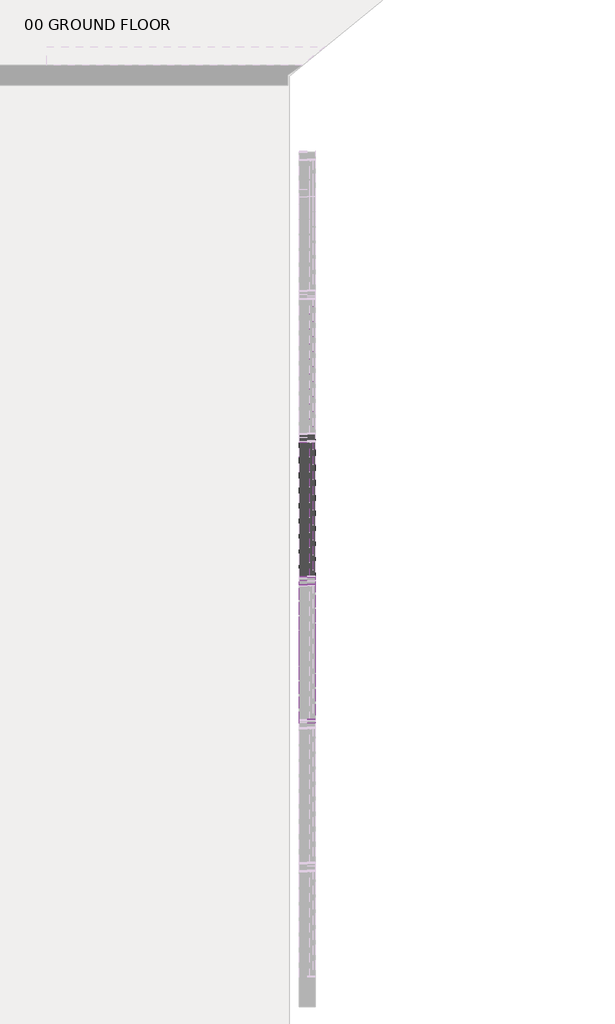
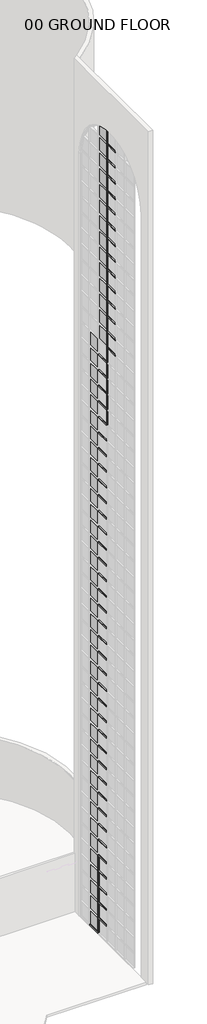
# One storey, part 20 of 33: 77 members, 52 plates.
"""IFC4 building model written with IfcOpenShell, lengths in millimetres."""

from ifc_helpers import new_model, si_unit, origin, place, context, project, spatial, transform, mapped, element, save
from components import member_14f97ceb, member_d1490fb0, member_2b49869a, member_6f85aded, member_a6249bd8, system_panel_glazed_f009bf0e, system_panel_glazed_0919b3b7, system_panel_glazed_f65f9e1d

model = new_model("IFC4")

# Units and contexts
model_context = context("Model", 3, world=origin())
ifc_project = project(units=[si_unit("LENGTHUNIT", "METRE", prefix="MILLI")], contexts=[model_context])

# Site, building, storey
site = spatial("IfcSite", under=ifc_project)
building = spatial("IfcBuilding", under=site)
storey = spatial("IfcBuildingStorey", under=building, Name="00 GROUND FLOOR", Elevation=0.0)

# Members
placement = place(None, origin())
member_shape = member_14f97ceb(model_context)
element("IfcMember", 1, ObjectType="Rectangular Mullion : 2.5\" x 5\" rectangular", at=placement, inside=storey, context=model_context, shape_type="MappedRepresentation", body=[
    mapped(member_shape, transform((44184.4050515, 6457.4964284, 0.0), x_axis=(0.0, 0.0, -1.0), y_axis=(1.0, 0.0, 0.0), z_axis=(0.0, -1.0, 0.0))),
])
member_2_shape = member_d1490fb0(model_context)
element("IfcMember", 2, ObjectType="Rectangular Mullion : 2.5\" x 5\" rectangular", at=placement, inside=storey, context=model_context, shape_type="MappedRepresentation", body=[
    mapped(member_2_shape, transform((44184.4050515, 6393.9964284, 1219.2), x_axis=(0.0, 0.0, 1.0), y_axis=(1.0, 0.0, 0.0), z_axis=(0.0, 1.0, 0.0))),
])
element("IfcMember", 3, ObjectType="Rectangular Mullion : 2.5\" x 5\" rectangular", at=placement, inside=storey, context=model_context, shape_type="MappedRepresentation", body=[
    mapped(member_2_shape, transform((44184.4050515, 6393.9964284, 2438.4), x_axis=(0.0, 0.0, 1.0), y_axis=(1.0, 0.0, 0.0), z_axis=(0.0, 1.0, 0.0))),
])
element("IfcMember", 4, ObjectType="Rectangular Mullion : 2.5\" x 5\" rectangular", at=placement, inside=storey, context=model_context, shape_type="MappedRepresentation", body=[
    mapped(member_2_shape, transform((44184.4050515, 6393.9964284, 3657.6), x_axis=(0.0, 0.0, 1.0), y_axis=(1.0, 0.0, 0.0), z_axis=(0.0, 1.0, 0.0))),
])
element("IfcMember", 5, ObjectType="Rectangular Mullion : 2.5\" x 5\" rectangular", at=placement, inside=storey, context=model_context, shape_type="MappedRepresentation", body=[
    mapped(member_2_shape, transform((44184.4050515, 6393.9964284, 4876.8), x_axis=(0.0, 0.0, 1.0), y_axis=(1.0, 0.0, 0.0), z_axis=(0.0, 1.0, 0.0))),
])
element("IfcMember", 6, ObjectType="Rectangular Mullion : 2.5\" x 5\" rectangular", at=placement, inside=storey, context=model_context, shape_type="MappedRepresentation", body=[
    mapped(member_2_shape, transform((44184.4050515, 6393.9964284, 6096.0), x_axis=(0.0, 0.0, 1.0), y_axis=(1.0, 0.0, 0.0), z_axis=(0.0, 1.0, 0.0))),
])
element("IfcMember", 7, ObjectType="Rectangular Mullion : 2.5\" x 5\" rectangular", at=placement, inside=storey, context=model_context, shape_type="MappedRepresentation", body=[
    mapped(member_2_shape, transform((44184.4050515, 6393.9964284, 7315.2), x_axis=(0.0, 0.0, 1.0), y_axis=(1.0, 0.0, 0.0), z_axis=(0.0, 1.0, 0.0))),
])
element("IfcMember", 8, ObjectType="Rectangular Mullion : 2.5\" x 5\" rectangular", at=placement, inside=storey, context=model_context, shape_type="MappedRepresentation", body=[
    mapped(member_2_shape, transform((44184.4050515, 6393.9964284, 8534.4), x_axis=(0.0, 0.0, 1.0), y_axis=(1.0, 0.0, 0.0), z_axis=(0.0, 1.0, 0.0))),
])
element("IfcMember", 9, ObjectType="Rectangular Mullion : 2.5\" x 5\" rectangular", at=placement, inside=storey, context=model_context, shape_type="MappedRepresentation", body=[
    mapped(member_2_shape, transform((44184.4050515, 6393.9964284, 9753.6), x_axis=(0.0, 0.0, 1.0), y_axis=(1.0, 0.0, 0.0), z_axis=(0.0, 1.0, 0.0))),
])
element("IfcMember", 10, ObjectType="Rectangular Mullion : 2.5\" x 5\" rectangular", at=placement, inside=storey, context=model_context, shape_type="MappedRepresentation", body=[
    mapped(member_2_shape, transform((44184.4050515, 6393.9964284, 10972.8), x_axis=(0.0, 0.0, 1.0), y_axis=(1.0, 0.0, 0.0), z_axis=(0.0, 1.0, 0.0))),
])
element("IfcMember", 11, ObjectType="Rectangular Mullion : 2.5\" x 5\" rectangular", at=placement, inside=storey, context=model_context, shape_type="MappedRepresentation", body=[
    mapped(member_2_shape, transform((44184.4050515, 6393.9964284, 12192.0), x_axis=(0.0, 0.0, 1.0), y_axis=(1.0, 0.0, 0.0), z_axis=(0.0, 1.0, 0.0))),
])
element("IfcMember", 12, ObjectType="Rectangular Mullion : 2.5\" x 5\" rectangular", at=placement, inside=storey, context=model_context, shape_type="MappedRepresentation", body=[
    mapped(member_2_shape, transform((44184.4050515, 6393.9964284, 13411.2), x_axis=(0.0, 0.0, 1.0), y_axis=(1.0, 0.0, 0.0), z_axis=(0.0, 1.0, 0.0))),
])
element("IfcMember", 13, ObjectType="Rectangular Mullion : 2.5\" x 5\" rectangular", at=placement, inside=storey, context=model_context, shape_type="MappedRepresentation", body=[
    mapped(member_2_shape, transform((44184.4050515, 6393.9964284, 14630.4), x_axis=(0.0, 0.0, 1.0), y_axis=(1.0, 0.0, 0.0), z_axis=(0.0, 1.0, 0.0))),
])
element("IfcMember", 14, ObjectType="Rectangular Mullion : 2.5\" x 5\" rectangular", at=placement, inside=storey, context=model_context, shape_type="MappedRepresentation", body=[
    mapped(member_2_shape, transform((44184.4050515, 6393.9964284, 15849.6), x_axis=(0.0, 0.0, 1.0), y_axis=(1.0, 0.0, 0.0), z_axis=(0.0, 1.0, 0.0))),
])
element("IfcMember", 15, ObjectType="Rectangular Mullion : 2.5\" x 5\" rectangular", at=placement, inside=storey, context=model_context, shape_type="MappedRepresentation", body=[
    mapped(member_2_shape, transform((44184.4050515, 6393.9964284, 17068.8), x_axis=(0.0, 0.0, 1.0), y_axis=(1.0, 0.0, 0.0), z_axis=(0.0, 1.0, 0.0))),
])
element("IfcMember", 16, ObjectType="Rectangular Mullion : 2.5\" x 5\" rectangular", at=placement, inside=storey, context=model_context, shape_type="MappedRepresentation", body=[
    mapped(member_2_shape, transform((44184.4050515, 6393.9964284, 18288.0), x_axis=(0.0, 0.0, 1.0), y_axis=(1.0, 0.0, 0.0), z_axis=(0.0, 1.0, 0.0))),
])
element("IfcMember", 17, ObjectType="Rectangular Mullion : 2.5\" x 5\" rectangular", at=placement, inside=storey, context=model_context, shape_type="MappedRepresentation", body=[
    mapped(member_2_shape, transform((44184.4050515, 6393.9964284, 19507.2), x_axis=(0.0, 0.0, 1.0), y_axis=(1.0, 0.0, 0.0), z_axis=(0.0, 1.0, 0.0))),
])
element("IfcMember", 18, ObjectType="Rectangular Mullion : 2.5\" x 5\" rectangular", at=placement, inside=storey, context=model_context, shape_type="MappedRepresentation", body=[
    mapped(member_2_shape, transform((44184.4050515, 6393.9964284, 20726.4), x_axis=(0.0, 0.0, 1.0), y_axis=(1.0, 0.0, 0.0), z_axis=(0.0, 1.0, 0.0))),
])
element("IfcMember", 19, ObjectType="Rectangular Mullion : 2.5\" x 5\" rectangular", at=placement, inside=storey, context=model_context, shape_type="MappedRepresentation", body=[
    mapped(member_2_shape, transform((44184.4050515, 6393.9964284, 21945.6), x_axis=(0.0, 0.0, 1.0), y_axis=(1.0, 0.0, 0.0), z_axis=(0.0, 1.0, 0.0))),
])
element("IfcMember", 20, ObjectType="Rectangular Mullion : 2.5\" x 5\" rectangular", at=placement, inside=storey, context=model_context, shape_type="MappedRepresentation", body=[
    mapped(member_2_shape, transform((44184.4050515, 6393.9964284, 23164.8), x_axis=(0.0, 0.0, 1.0), y_axis=(1.0, 0.0, 0.0), z_axis=(0.0, 1.0, 0.0))),
])
element("IfcMember", 21, ObjectType="Rectangular Mullion : 2.5\" x 5\" rectangular", at=placement, inside=storey, context=model_context, shape_type="MappedRepresentation", body=[
    mapped(member_2_shape, transform((44184.4050515, 6393.9964284, 24384.0), x_axis=(0.0, 0.0, 1.0), y_axis=(1.0, 0.0, 0.0), z_axis=(0.0, 1.0, 0.0))),
])
element("IfcMember", 22, ObjectType="Rectangular Mullion : 2.5\" x 5\" rectangular", at=placement, inside=storey, context=model_context, shape_type="MappedRepresentation", body=[
    mapped(member_2_shape, transform((44184.4050515, 6393.9964284, 25603.2), x_axis=(0.0, 0.0, 1.0), y_axis=(1.0, 0.0, 0.0), z_axis=(0.0, 1.0, 0.0))),
])
element("IfcMember", 23, ObjectType="Rectangular Mullion : 2.5\" x 5\" rectangular", at=placement, inside=storey, context=model_context, shape_type="MappedRepresentation", body=[
    mapped(member_2_shape, transform((44184.4050515, 6393.9964284, 26822.4), x_axis=(0.0, 0.0, 1.0), y_axis=(1.0, 0.0, 0.0), z_axis=(0.0, 1.0, 0.0))),
])
element("IfcMember", 24, ObjectType="Rectangular Mullion : 2.5\" x 5\" rectangular", at=placement, inside=storey, context=model_context, shape_type="MappedRepresentation", body=[
    mapped(member_2_shape, transform((44184.4050515, 6393.9964284, 28041.6), x_axis=(0.0, 0.0, 1.0), y_axis=(1.0, 0.0, 0.0), z_axis=(0.0, 1.0, 0.0))),
])
element("IfcMember", 25, ObjectType="Rectangular Mullion : 2.5\" x 5\" rectangular", at=placement, inside=storey, context=model_context, shape_type="MappedRepresentation", body=[
    mapped(member_2_shape, transform((44184.4050515, 6393.9964284, 29260.8), x_axis=(0.0, 0.0, 1.0), y_axis=(1.0, 0.0, 0.0), z_axis=(0.0, 1.0, 0.0))),
])
element("IfcMember", 26, ObjectType="Rectangular Mullion : 2.5\" x 5\" rectangular", at=placement, inside=storey, context=model_context, shape_type="MappedRepresentation", body=[
    mapped(member_2_shape, transform((44184.4050515, 6393.9964284, 30480.0), x_axis=(0.0, 0.0, 1.0), y_axis=(1.0, 0.0, 0.0), z_axis=(0.0, 1.0, 0.0))),
])
element("IfcMember", 27, ObjectType="Rectangular Mullion : 2.5\" x 5\" rectangular", at=placement, inside=storey, context=model_context, shape_type="MappedRepresentation", body=[
    mapped(member_2_shape, transform((44184.4050515, 6393.9964284, 31699.2), x_axis=(0.0, 0.0, 1.0), y_axis=(1.0, 0.0, 0.0), z_axis=(0.0, 1.0, 0.0))),
])
element("IfcMember", 28, ObjectType="Rectangular Mullion : 2.5\" x 5\" rectangular", at=placement, inside=storey, context=model_context, shape_type="MappedRepresentation", body=[
    mapped(member_2_shape, transform((44184.4050515, 6393.9964284, 32918.4), x_axis=(0.0, 0.0, 1.0), y_axis=(1.0, 0.0, 0.0), z_axis=(0.0, 1.0, 0.0))),
])
element("IfcMember", 29, ObjectType="Rectangular Mullion : 2.5\" x 5\" rectangular", at=placement, inside=storey, context=model_context, shape_type="MappedRepresentation", body=[
    mapped(member_2_shape, transform((44184.4050515, 6393.9964284, 34137.6), x_axis=(0.0, 0.0, 1.0), y_axis=(1.0, 0.0, 0.0), z_axis=(0.0, 1.0, 0.0))),
])
element("IfcMember", 30, ObjectType="Rectangular Mullion : 2.5\" x 5\" rectangular", at=placement, inside=storey, context=model_context, shape_type="MappedRepresentation", body=[
    mapped(member_2_shape, transform((44184.4050515, 6393.9964284, 35356.8), x_axis=(0.0, 0.0, 1.0), y_axis=(1.0, 0.0, 0.0), z_axis=(0.0, 1.0, 0.0))),
])
element("IfcMember", 31, ObjectType="Rectangular Mullion : 2.5\" x 5\" rectangular", at=placement, inside=storey, context=model_context, shape_type="MappedRepresentation", body=[
    mapped(member_2_shape, transform((44184.4050515, 6393.9964284, 36576.0), x_axis=(0.0, 0.0, 1.0), y_axis=(1.0, 0.0, 0.0), z_axis=(0.0, 1.0, 0.0))),
])
element("IfcMember", 32, ObjectType="Rectangular Mullion : 2.5\" x 5\" rectangular", at=placement, inside=storey, context=model_context, shape_type="MappedRepresentation", body=[
    mapped(member_2_shape, transform((44184.4050515, 6393.9964284, 37795.2), x_axis=(0.0, 0.0, 1.0), y_axis=(1.0, 0.0, 0.0), z_axis=(0.0, 1.0, 0.0))),
])
element("IfcMember", 33, ObjectType="Rectangular Mullion : 2.5\" x 5\" rectangular", at=placement, inside=storey, context=model_context, shape_type="MappedRepresentation", body=[
    mapped(member_2_shape, transform((44184.4050515, 6393.9964284, 39014.4), x_axis=(0.0, 0.0, 1.0), y_axis=(1.0, 0.0, 0.0), z_axis=(0.0, 1.0, 0.0))),
])
element("IfcMember", 34, ObjectType="Rectangular Mullion : 2.5\" x 5\" rectangular", at=placement, inside=storey, context=model_context, shape_type="MappedRepresentation", body=[
    mapped(member_2_shape, transform((44184.4050515, 6393.9964284, 40233.6), x_axis=(0.0, 0.0, 1.0), y_axis=(1.0, 0.0, 0.0), z_axis=(0.0, 1.0, 0.0))),
])
element("IfcMember", 35, ObjectType="Rectangular Mullion : 2.5\" x 5\" rectangular", at=placement, inside=storey, context=model_context, shape_type="MappedRepresentation", body=[
    mapped(member_2_shape, transform((44184.4050515, 6393.9964284, 41452.8), x_axis=(0.0, 0.0, 1.0), y_axis=(1.0, 0.0, 0.0), z_axis=(0.0, 1.0, 0.0))),
])
element("IfcMember", 36, ObjectType="Rectangular Mullion : 2.5\" x 5\" rectangular", at=placement, inside=storey, context=model_context, shape_type="MappedRepresentation", body=[
    mapped(member_2_shape, transform((44184.4050515, 6393.9964284, 42672.0), x_axis=(0.0, 0.0, 1.0), y_axis=(1.0, 0.0, 0.0), z_axis=(0.0, 1.0, 0.0))),
])
element("IfcMember", 37, ObjectType="Rectangular Mullion : 2.5\" x 5\" rectangular", at=placement, inside=storey, context=model_context, shape_type="MappedRepresentation", body=[
    mapped(member_2_shape, transform((44184.4050515, 6393.9964284, 43891.2), x_axis=(0.0, 0.0, 1.0), y_axis=(1.0, 0.0, 0.0), z_axis=(0.0, 1.0, 0.0))),
])
element("IfcMember", 38, ObjectType="Rectangular Mullion : 2.5\" x 5\" rectangular", at=placement, inside=storey, context=model_context, shape_type="MappedRepresentation", body=[
    mapped(member_2_shape, transform((44184.4050515, 6393.9964284, 45110.4), x_axis=(0.0, 0.0, 1.0), y_axis=(1.0, 0.0, 0.0), z_axis=(0.0, 1.0, 0.0))),
])
element("IfcMember", 39, ObjectType="Rectangular Mullion : 2.5\" x 5\" rectangular", at=placement, inside=storey, context=model_context, shape_type="MappedRepresentation", body=[
    mapped(member_2_shape, transform((44184.4050515, 5261.8821428, 46329.6), x_axis=(0.0, 0.0, 1.0), y_axis=(1.0, 0.0, 0.0), z_axis=(0.0, 1.0, 0.0))),
])
element("IfcMember", 40, ObjectType="Rectangular Mullion : 2.5\" x 5\" rectangular", at=placement, inside=storey, context=model_context, shape_type="MappedRepresentation", body=[
    mapped(member_2_shape, transform((44184.4050515, 5261.8821428, 47548.8), x_axis=(0.0, 0.0, 1.0), y_axis=(1.0, 0.0, 0.0), z_axis=(0.0, 1.0, 0.0))),
])
element("IfcMember", 41, ObjectType="Rectangular Mullion : 2.5\" x 5\" rectangular", at=placement, inside=storey, context=model_context, shape_type="MappedRepresentation", body=[
    mapped(member_2_shape, transform((44184.4050515, 5261.8821428, 48768.0), x_axis=(0.0, 0.0, 1.0), y_axis=(1.0, 0.0, 0.0), z_axis=(0.0, 1.0, 0.0))),
])
element("IfcMember", 42, ObjectType="Rectangular Mullion : 2.5\" x 5\" rectangular", at=placement, inside=storey, context=model_context, shape_type="MappedRepresentation", body=[
    mapped(member_2_shape, transform((44184.4050515, 5261.8821428, 49987.2), x_axis=(0.0, 0.0, 1.0), y_axis=(1.0, 0.0, 0.0), z_axis=(0.0, 1.0, 0.0))),
])
element("IfcMember", 43, ObjectType="Rectangular Mullion : 2.5\" x 5\" rectangular", at=placement, inside=storey, context=model_context, shape_type="MappedRepresentation", body=[
    mapped(member_2_shape, transform((44184.4050515, 5261.8821428, 51206.4), x_axis=(0.0, 0.0, 1.0), y_axis=(1.0, 0.0, 0.0), z_axis=(0.0, 1.0, 0.0))),
])
element("IfcMember", 44, ObjectType="Rectangular Mullion : 2.5\" x 5\" rectangular", at=placement, inside=storey, context=model_context, shape_type="MappedRepresentation", body=[
    mapped(member_2_shape, transform((44184.4050515, 5261.8821428, 52425.6), x_axis=(0.0, 0.0, 1.0), y_axis=(1.0, 0.0, 0.0), z_axis=(0.0, 1.0, 0.0))),
])
element("IfcMember", 45, ObjectType="Rectangular Mullion : 2.5\" x 5\" rectangular", at=placement, inside=storey, context=model_context, shape_type="MappedRepresentation", body=[
    mapped(member_2_shape, transform((44184.4050515, 5261.8821428, 53644.8), x_axis=(0.0, 0.0, 1.0), y_axis=(1.0, 0.0, 0.0), z_axis=(0.0, 1.0, 0.0))),
])
element("IfcMember", 46, ObjectType="Rectangular Mullion : 2.5\" x 5\" rectangular", at=placement, inside=storey, context=model_context, shape_type="MappedRepresentation", body=[
    mapped(member_2_shape, transform((44184.4050515, 5261.8821428, 54864.0), x_axis=(0.0, 0.0, 1.0), y_axis=(1.0, 0.0, 0.0), z_axis=(0.0, 1.0, 0.0))),
])
element("IfcMember", 47, ObjectType="Rectangular Mullion : 2.5\" x 5\" rectangular", at=placement, inside=storey, context=model_context, shape_type="MappedRepresentation", body=[
    mapped(member_2_shape, transform((44184.4050515, 5261.8821428, 56083.2), x_axis=(0.0, 0.0, 1.0), y_axis=(1.0, 0.0, 0.0), z_axis=(0.0, 1.0, 0.0))),
])
element("IfcMember", 48, ObjectType="Rectangular Mullion : 2.5\" x 5\" rectangular", at=placement, inside=storey, context=model_context, shape_type="MappedRepresentation", body=[
    mapped(member_2_shape, transform((44184.4050515, 5261.8821428, 57302.4), x_axis=(0.0, 0.0, 1.0), y_axis=(1.0, 0.0, 0.0), z_axis=(0.0, 1.0, 0.0))),
])
element("IfcMember", 49, ObjectType="Rectangular Mullion : 2.5\" x 5\" rectangular", at=placement, inside=storey, context=model_context, shape_type="MappedRepresentation", body=[
    mapped(member_2_shape, transform((44184.4050515, 5261.8821428, 58521.6), x_axis=(0.0, 0.0, 1.0), y_axis=(1.0, 0.0, 0.0), z_axis=(0.0, 1.0, 0.0))),
])
element("IfcMember", 50, ObjectType="Rectangular Mullion : 2.5\" x 5\" rectangular", at=placement, inside=storey, context=model_context, shape_type="MappedRepresentation", body=[
    mapped(member_2_shape, transform((44184.4050515, 5261.8821428, 59740.8), x_axis=(0.0, 0.0, 1.0), y_axis=(1.0, 0.0, 0.0), z_axis=(0.0, 1.0, 0.0))),
])
element("IfcMember", 51, ObjectType="Rectangular Mullion : 2.5\" x 5\" rectangular", at=placement, inside=storey, context=model_context, shape_type="MappedRepresentation", body=[
    mapped(member_2_shape, transform((44184.4050515, 5261.8821428, 60960.0), x_axis=(0.0, 0.0, 1.0), y_axis=(1.0, 0.0, 0.0), z_axis=(0.0, 1.0, 0.0))),
])
element("IfcMember", 52, ObjectType="Rectangular Mullion : 2.5\" x 5\" rectangular", at=placement, inside=storey, context=model_context, shape_type="MappedRepresentation", body=[
    mapped(member_2_shape, transform((44184.4050515, 5261.8821428, 62179.2), x_axis=(0.0, 0.0, 1.0), y_axis=(1.0, 0.0, 0.0), z_axis=(0.0, 1.0, 0.0))),
])
member_3_shape = member_2b49869a(model_context)
element("IfcMember", 53, ObjectType="Rectangular Mullion : 2.5\" x 5\" rectangular", at=placement, inside=storey, context=model_context, shape_type="MappedRepresentation", body=[
    mapped(member_3_shape, transform((44184.4050515, 6425.7464284, 0.0), x_axis=(0.0, 1.0, 0.0), y_axis=(1.0, 0.0, 0.0), z_axis=(0.0, 0.0, -1.0))),
])
element("IfcMember", 54, ObjectType="Rectangular Mullion : 2.5\" x 5\" rectangular", at=placement, inside=storey, context=model_context, shape_type="MappedRepresentation", body=[
    mapped(member_3_shape, transform((44184.4050515, 6425.7464284, 1219.2), x_axis=(0.0, 1.0, 0.0), y_axis=(1.0, 0.0, 0.0), z_axis=(0.0, 0.0, -1.0))),
])
element("IfcMember", 55, ObjectType="Rectangular Mullion : 2.5\" x 5\" rectangular", at=placement, inside=storey, context=model_context, shape_type="MappedRepresentation", body=[
    mapped(member_3_shape, transform((44184.4050515, 6425.7464284, 2438.4), x_axis=(0.0, 1.0, 0.0), y_axis=(1.0, 0.0, 0.0), z_axis=(0.0, 0.0, -1.0))),
])
element("IfcMember", 56, ObjectType="Rectangular Mullion : 2.5\" x 5\" rectangular", at=placement, inside=storey, context=model_context, shape_type="MappedRepresentation", body=[
    mapped(member_3_shape, transform((44184.4050515, 6425.7464284, 3657.6), x_axis=(0.0, 1.0, 0.0), y_axis=(1.0, 0.0, 0.0), z_axis=(0.0, 0.0, -1.0))),
])
element("IfcMember", 57, ObjectType="Rectangular Mullion : 2.5\" x 5\" rectangular", at=placement, inside=storey, context=model_context, shape_type="MappedRepresentation", body=[
    mapped(member_3_shape, transform((44184.4050515, 6425.7464284, 4876.8), x_axis=(0.0, 1.0, 0.0), y_axis=(1.0, 0.0, 0.0), z_axis=(0.0, 0.0, -1.0))),
])
element("IfcMember", 58, ObjectType="Rectangular Mullion : 2.5\" x 5\" rectangular", at=placement, inside=storey, context=model_context, shape_type="MappedRepresentation", body=[
    mapped(member_3_shape, transform((44184.4050515, 5293.6321428, 40233.6), x_axis=(0.0, 1.0, 0.0), y_axis=(1.0, 0.0, 0.0), z_axis=(0.0, 0.0, -1.0))),
])
element("IfcMember", 59, ObjectType="Rectangular Mullion : 2.5\" x 5\" rectangular", at=placement, inside=storey, context=model_context, shape_type="MappedRepresentation", body=[
    mapped(member_3_shape, transform((44184.4050515, 5293.6321428, 41452.8), x_axis=(0.0, 1.0, 0.0), y_axis=(1.0, 0.0, 0.0), z_axis=(0.0, 0.0, -1.0))),
])
element("IfcMember", 60, ObjectType="Rectangular Mullion : 2.5\" x 5\" rectangular", at=placement, inside=storey, context=model_context, shape_type="MappedRepresentation", body=[
    mapped(member_3_shape, transform((44184.4050515, 5293.6321428, 42672.0), x_axis=(0.0, 1.0, 0.0), y_axis=(1.0, 0.0, 0.0), z_axis=(0.0, 0.0, -1.0))),
])
element("IfcMember", 61, ObjectType="Rectangular Mullion : 2.5\" x 5\" rectangular", at=placement, inside=storey, context=model_context, shape_type="MappedRepresentation", body=[
    mapped(member_3_shape, transform((44184.4050515, 5293.6321428, 43891.2), x_axis=(0.0, 1.0, 0.0), y_axis=(1.0, 0.0, 0.0), z_axis=(0.0, 0.0, -1.0))),
])
element("IfcMember", 62, ObjectType="Rectangular Mullion : 2.5\" x 5\" rectangular", at=placement, inside=storey, context=model_context, shape_type="MappedRepresentation", body=[
    mapped(member_3_shape, transform((44184.4050515, 5293.6321428, 45110.4), x_axis=(0.0, 1.0, 0.0), y_axis=(1.0, 0.0, 0.0), z_axis=(0.0, 0.0, -1.0))),
])
element("IfcMember", 63, ObjectType="Rectangular Mullion : 2.5\" x 5\" rectangular", at=placement, inside=storey, context=model_context, shape_type="MappedRepresentation", body=[
    mapped(member_3_shape, transform((44184.4050515, 5293.6321428, 46329.6), x_axis=(0.0, 1.0, 0.0), y_axis=(1.0, 0.0, 0.0), z_axis=(0.0, 0.0, -1.0))),
])
element("IfcMember", 64, ObjectType="Rectangular Mullion : 2.5\" x 5\" rectangular", at=placement, inside=storey, context=model_context, shape_type="MappedRepresentation", body=[
    mapped(member_3_shape, transform((44184.4050515, 5293.6321428, 47548.8), x_axis=(0.0, 1.0, 0.0), y_axis=(1.0, 0.0, 0.0), z_axis=(0.0, 0.0, -1.0))),
])
element("IfcMember", 65, ObjectType="Rectangular Mullion : 2.5\" x 5\" rectangular", at=placement, inside=storey, context=model_context, shape_type="MappedRepresentation", body=[
    mapped(member_3_shape, transform((44184.4050515, 5293.6321428, 48768.0), x_axis=(0.0, 1.0, 0.0), y_axis=(1.0, 0.0, 0.0), z_axis=(0.0, 0.0, -1.0))),
])
element("IfcMember", 66, ObjectType="Rectangular Mullion : 2.5\" x 5\" rectangular", at=placement, inside=storey, context=model_context, shape_type="MappedRepresentation", body=[
    mapped(member_3_shape, transform((44184.4050515, 5293.6321428, 49987.2), x_axis=(0.0, 1.0, 0.0), y_axis=(1.0, 0.0, 0.0), z_axis=(0.0, 0.0, -1.0))),
])
element("IfcMember", 67, ObjectType="Rectangular Mullion : 2.5\" x 5\" rectangular", at=placement, inside=storey, context=model_context, shape_type="MappedRepresentation", body=[
    mapped(member_3_shape, transform((44184.4050515, 5293.6321428, 51206.4), x_axis=(0.0, 1.0, 0.0), y_axis=(1.0, 0.0, 0.0), z_axis=(0.0, 0.0, -1.0))),
])
element("IfcMember", 68, ObjectType="Rectangular Mullion : 2.5\" x 5\" rectangular", at=placement, inside=storey, context=model_context, shape_type="MappedRepresentation", body=[
    mapped(member_3_shape, transform((44184.4050515, 5293.6321428, 52425.6), x_axis=(0.0, 1.0, 0.0), y_axis=(1.0, 0.0, 0.0), z_axis=(0.0, 0.0, -1.0))),
])
element("IfcMember", 69, ObjectType="Rectangular Mullion : 2.5\" x 5\" rectangular", at=placement, inside=storey, context=model_context, shape_type="MappedRepresentation", body=[
    mapped(member_3_shape, transform((44184.4050515, 5293.6321428, 53644.8), x_axis=(0.0, 1.0, 0.0), y_axis=(1.0, 0.0, 0.0), z_axis=(0.0, 0.0, -1.0))),
])
element("IfcMember", 70, ObjectType="Rectangular Mullion : 2.5\" x 5\" rectangular", at=placement, inside=storey, context=model_context, shape_type="MappedRepresentation", body=[
    mapped(member_3_shape, transform((44184.4050515, 5293.6321428, 54864.0), x_axis=(0.0, 1.0, 0.0), y_axis=(1.0, 0.0, 0.0), z_axis=(0.0, 0.0, -1.0))),
])
element("IfcMember", 71, ObjectType="Rectangular Mullion : 2.5\" x 5\" rectangular", at=placement, inside=storey, context=model_context, shape_type="MappedRepresentation", body=[
    mapped(member_3_shape, transform((44184.4050515, 5293.6321428, 56083.2), x_axis=(0.0, 1.0, 0.0), y_axis=(1.0, 0.0, 0.0), z_axis=(0.0, 0.0, -1.0))),
])
element("IfcMember", 72, ObjectType="Rectangular Mullion : 2.5\" x 5\" rectangular", at=placement, inside=storey, context=model_context, shape_type="MappedRepresentation", body=[
    mapped(member_3_shape, transform((44184.4050515, 5293.6321428, 57302.4), x_axis=(0.0, 1.0, 0.0), y_axis=(1.0, 0.0, 0.0), z_axis=(0.0, 0.0, -1.0))),
])
element("IfcMember", 73, ObjectType="Rectangular Mullion : 2.5\" x 5\" rectangular", at=placement, inside=storey, context=model_context, shape_type="MappedRepresentation", body=[
    mapped(member_3_shape, transform((44184.4050515, 5293.6321428, 58521.6), x_axis=(0.0, 1.0, 0.0), y_axis=(1.0, 0.0, 0.0), z_axis=(0.0, 0.0, -1.0))),
])
element("IfcMember", 74, ObjectType="Rectangular Mullion : 2.5\" x 5\" rectangular", at=placement, inside=storey, context=model_context, shape_type="MappedRepresentation", body=[
    mapped(member_3_shape, transform((44184.4050515, 5293.6321428, 59740.8), x_axis=(0.0, 1.0, 0.0), y_axis=(1.0, 0.0, 0.0), z_axis=(0.0, 0.0, -1.0))),
])
element("IfcMember", 75, ObjectType="Rectangular Mullion : 2.5\" x 5\" rectangular", at=placement, inside=storey, context=model_context, shape_type="MappedRepresentation", body=[
    mapped(member_3_shape, transform((44184.4050515, 5293.6321428, 60960.0), x_axis=(0.0, 1.0, 0.0), y_axis=(1.0, 0.0, 0.0), z_axis=(0.0, 0.0, -1.0))),
])
member_4_shape = member_6f85aded(model_context)
element("IfcMember", 76, ObjectType="Rectangular Mullion : 2.5\" x 5\" rectangular", at=placement, inside=storey, context=model_context, shape_type="MappedRepresentation", body=[
    mapped(member_4_shape, transform((44184.4050515, 5293.6321428, 63357.7589257), x_axis=(0.0, 0.14285714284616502, 0.9897433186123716), y_axis=(1.0, 0.0, 0.0), z_axis=(0.0, 0.9897433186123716, -0.14285714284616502))),
])
member_5_shape = member_a6249bd8(model_context)
element("IfcMember", 77, ObjectType="Rectangular Mullion : 2.5\" x 5\" rectangular", at=placement, inside=storey, context=model_context, shape_type="MappedRepresentation", body=[
    mapped(member_5_shape, transform((44184.4050515, 5293.6321428, 62179.2), x_axis=(0.0, 1.0, 0.0), y_axis=(1.0, 0.0, 0.0), z_axis=(0.0, 0.0, -1.0))),
])

# Plates
system_panel_glazed_shape = system_panel_glazed_f009bf0e(model_context)
element("IfcPlate", 78, ObjectType="System Panel : Glazed", at=placement, inside=storey, context=model_context, shape_type="MappedRepresentation", body=[
    mapped(system_panel_glazed_shape, transform((44184.4050515, 6991.8035713, 63.5), x_axis=(0.0, 1.0, 0.0), y_axis=(-1.0, 0.0, 0.0), z_axis=(0.0, 0.0, 1.0))),
])
system_panel_glazed_2_shape = system_panel_glazed_0919b3b7(model_context)
element("IfcPlate", 79, ObjectType="System Panel : Glazed", at=placement, inside=storey, context=model_context, shape_type="MappedRepresentation", body=[
    mapped(system_panel_glazed_2_shape, transform((44184.4050515, 6991.8035713, 1250.95), x_axis=(0.0, 1.0, 0.0), y_axis=(-1.0, 0.0, 0.0), z_axis=(0.0, 0.0, 1.0))),
])
element("IfcPlate", 80, ObjectType="System Panel : Glazed", at=placement, inside=storey, context=model_context, shape_type="MappedRepresentation", body=[
    mapped(system_panel_glazed_2_shape, transform((44184.4050515, 6991.8035713, 2470.15), x_axis=(0.0, 1.0, 0.0), y_axis=(-1.0, 0.0, 0.0), z_axis=(0.0, 0.0, 1.0))),
])
element("IfcPlate", 81, ObjectType="System Panel : Glazed", at=placement, inside=storey, context=model_context, shape_type="MappedRepresentation", body=[
    mapped(system_panel_glazed_2_shape, transform((44184.4050515, 6991.8035713, 3689.35), x_axis=(0.0, 1.0, 0.0), y_axis=(-1.0, 0.0, 0.0), z_axis=(0.0, 0.0, 1.0))),
])
element("IfcPlate", 82, ObjectType="System Panel : Glazed", at=placement, inside=storey, context=model_context, shape_type="MappedRepresentation", body=[
    mapped(system_panel_glazed_2_shape, transform((44184.4050515, 6991.8035713, 4908.55), x_axis=(0.0, 1.0, 0.0), y_axis=(-1.0, 0.0, 0.0), z_axis=(0.0, 0.0, 1.0))),
])
element("IfcPlate", 83, ObjectType="System Panel : Glazed", at=placement, inside=storey, context=model_context, shape_type="MappedRepresentation", body=[
    mapped(system_panel_glazed_2_shape, transform((44184.4050515, 6991.8035713, 6127.75), x_axis=(0.0, 1.0, 0.0), y_axis=(-1.0, 0.0, 0.0), z_axis=(0.0, 0.0, 1.0))),
])
element("IfcPlate", 84, ObjectType="System Panel : Glazed", at=placement, inside=storey, context=model_context, shape_type="MappedRepresentation", body=[
    mapped(system_panel_glazed_2_shape, transform((44184.4050515, 6991.8035713, 7346.95), x_axis=(0.0, 1.0, 0.0), y_axis=(-1.0, 0.0, 0.0), z_axis=(0.0, 0.0, 1.0))),
])
element("IfcPlate", 85, ObjectType="System Panel : Glazed", at=placement, inside=storey, context=model_context, shape_type="MappedRepresentation", body=[
    mapped(system_panel_glazed_2_shape, transform((44184.4050515, 6991.8035713, 8566.15), x_axis=(0.0, 1.0, 0.0), y_axis=(-1.0, 0.0, 0.0), z_axis=(0.0, 0.0, 1.0))),
])
element("IfcPlate", 86, ObjectType="System Panel : Glazed", at=placement, inside=storey, context=model_context, shape_type="MappedRepresentation", body=[
    mapped(system_panel_glazed_2_shape, transform((44184.4050515, 6991.8035713, 9785.35), x_axis=(0.0, 1.0, 0.0), y_axis=(-1.0, 0.0, 0.0), z_axis=(0.0, 0.0, 1.0))),
])
element("IfcPlate", 87, ObjectType="System Panel : Glazed", at=placement, inside=storey, context=model_context, shape_type="MappedRepresentation", body=[
    mapped(system_panel_glazed_2_shape, transform((44184.4050515, 6991.8035713, 11004.55), x_axis=(0.0, 1.0, 0.0), y_axis=(-1.0, 0.0, 0.0), z_axis=(0.0, 0.0, 1.0))),
])
element("IfcPlate", 88, ObjectType="System Panel : Glazed", at=placement, inside=storey, context=model_context, shape_type="MappedRepresentation", body=[
    mapped(system_panel_glazed_2_shape, transform((44184.4050515, 6991.8035713, 12223.75), x_axis=(0.0, 1.0, 0.0), y_axis=(-1.0, 0.0, 0.0), z_axis=(0.0, 0.0, 1.0))),
])
element("IfcPlate", 89, ObjectType="System Panel : Glazed", at=placement, inside=storey, context=model_context, shape_type="MappedRepresentation", body=[
    mapped(system_panel_glazed_2_shape, transform((44184.4050515, 6991.8035713, 13442.95), x_axis=(0.0, 1.0, 0.0), y_axis=(-1.0, 0.0, 0.0), z_axis=(0.0, 0.0, 1.0))),
])
element("IfcPlate", 90, ObjectType="System Panel : Glazed", at=placement, inside=storey, context=model_context, shape_type="MappedRepresentation", body=[
    mapped(system_panel_glazed_2_shape, transform((44184.4050515, 6991.8035713, 14662.15), x_axis=(0.0, 1.0, 0.0), y_axis=(-1.0, 0.0, 0.0), z_axis=(0.0, 0.0, 1.0))),
])
element("IfcPlate", 91, ObjectType="System Panel : Glazed", at=placement, inside=storey, context=model_context, shape_type="MappedRepresentation", body=[
    mapped(system_panel_glazed_2_shape, transform((44184.4050515, 6991.8035713, 15881.35), x_axis=(0.0, 1.0, 0.0), y_axis=(-1.0, 0.0, 0.0), z_axis=(0.0, 0.0, 1.0))),
])
element("IfcPlate", 92, ObjectType="System Panel : Glazed", at=placement, inside=storey, context=model_context, shape_type="MappedRepresentation", body=[
    mapped(system_panel_glazed_2_shape, transform((44184.4050515, 6991.8035713, 17100.55), x_axis=(0.0, 1.0, 0.0), y_axis=(-1.0, 0.0, 0.0), z_axis=(0.0, 0.0, 1.0))),
])
element("IfcPlate", 93, ObjectType="System Panel : Glazed", at=placement, inside=storey, context=model_context, shape_type="MappedRepresentation", body=[
    mapped(system_panel_glazed_2_shape, transform((44184.4050515, 6991.8035713, 18319.75), x_axis=(0.0, 1.0, 0.0), y_axis=(-1.0, 0.0, 0.0), z_axis=(0.0, 0.0, 1.0))),
])
element("IfcPlate", 94, ObjectType="System Panel : Glazed", at=placement, inside=storey, context=model_context, shape_type="MappedRepresentation", body=[
    mapped(system_panel_glazed_2_shape, transform((44184.4050515, 6991.8035713, 19538.95), x_axis=(0.0, 1.0, 0.0), y_axis=(-1.0, 0.0, 0.0), z_axis=(0.0, 0.0, 1.0))),
])
element("IfcPlate", 95, ObjectType="System Panel : Glazed", at=placement, inside=storey, context=model_context, shape_type="MappedRepresentation", body=[
    mapped(system_panel_glazed_2_shape, transform((44184.4050515, 6991.8035713, 20758.15), x_axis=(0.0, 1.0, 0.0), y_axis=(-1.0, 0.0, 0.0), z_axis=(0.0, 0.0, 1.0))),
])
element("IfcPlate", 96, ObjectType="System Panel : Glazed", at=placement, inside=storey, context=model_context, shape_type="MappedRepresentation", body=[
    mapped(system_panel_glazed_2_shape, transform((44184.4050515, 6991.8035713, 21977.35), x_axis=(0.0, 1.0, 0.0), y_axis=(-1.0, 0.0, 0.0), z_axis=(0.0, 0.0, 1.0))),
])
element("IfcPlate", 97, ObjectType="System Panel : Glazed", at=placement, inside=storey, context=model_context, shape_type="MappedRepresentation", body=[
    mapped(system_panel_glazed_2_shape, transform((44184.4050515, 6991.8035713, 23196.55), x_axis=(0.0, 1.0, 0.0), y_axis=(-1.0, 0.0, 0.0), z_axis=(0.0, 0.0, 1.0))),
])
element("IfcPlate", 98, ObjectType="System Panel : Glazed", at=placement, inside=storey, context=model_context, shape_type="MappedRepresentation", body=[
    mapped(system_panel_glazed_2_shape, transform((44184.4050515, 6991.8035713, 24415.75), x_axis=(0.0, 1.0, 0.0), y_axis=(-1.0, 0.0, 0.0), z_axis=(0.0, 0.0, 1.0))),
])
element("IfcPlate", 99, ObjectType="System Panel : Glazed", at=placement, inside=storey, context=model_context, shape_type="MappedRepresentation", body=[
    mapped(system_panel_glazed_2_shape, transform((44184.4050515, 6991.8035713, 25634.95), x_axis=(0.0, 1.0, 0.0), y_axis=(-1.0, 0.0, 0.0), z_axis=(0.0, 0.0, 1.0))),
])
element("IfcPlate", 100, ObjectType="System Panel : Glazed", at=placement, inside=storey, context=model_context, shape_type="MappedRepresentation", body=[
    mapped(system_panel_glazed_2_shape, transform((44184.4050515, 6991.8035713, 26854.15), x_axis=(0.0, 1.0, 0.0), y_axis=(-1.0, 0.0, 0.0), z_axis=(0.0, 0.0, 1.0))),
])
element("IfcPlate", 101, ObjectType="System Panel : Glazed", at=placement, inside=storey, context=model_context, shape_type="MappedRepresentation", body=[
    mapped(system_panel_glazed_2_shape, transform((44184.4050515, 6991.8035713, 28073.35), x_axis=(0.0, 1.0, 0.0), y_axis=(-1.0, 0.0, 0.0), z_axis=(0.0, 0.0, 1.0))),
])
element("IfcPlate", 102, ObjectType="System Panel : Glazed", at=placement, inside=storey, context=model_context, shape_type="MappedRepresentation", body=[
    mapped(system_panel_glazed_2_shape, transform((44184.4050515, 6991.8035713, 29292.55), x_axis=(0.0, 1.0, 0.0), y_axis=(-1.0, 0.0, 0.0), z_axis=(0.0, 0.0, 1.0))),
])
element("IfcPlate", 103, ObjectType="System Panel : Glazed", at=placement, inside=storey, context=model_context, shape_type="MappedRepresentation", body=[
    mapped(system_panel_glazed_2_shape, transform((44184.4050515, 6991.8035713, 30511.75), x_axis=(0.0, 1.0, 0.0), y_axis=(-1.0, 0.0, 0.0), z_axis=(0.0, 0.0, 1.0))),
])
element("IfcPlate", 104, ObjectType="System Panel : Glazed", at=placement, inside=storey, context=model_context, shape_type="MappedRepresentation", body=[
    mapped(system_panel_glazed_2_shape, transform((44184.4050515, 6991.8035713, 31730.95), x_axis=(0.0, 1.0, 0.0), y_axis=(-1.0, 0.0, 0.0), z_axis=(0.0, 0.0, 1.0))),
])
element("IfcPlate", 105, ObjectType="System Panel : Glazed", at=placement, inside=storey, context=model_context, shape_type="MappedRepresentation", body=[
    mapped(system_panel_glazed_2_shape, transform((44184.4050515, 6991.8035713, 32950.15), x_axis=(0.0, 1.0, 0.0), y_axis=(-1.0, 0.0, 0.0), z_axis=(0.0, 0.0, 1.0))),
])
element("IfcPlate", 106, ObjectType="System Panel : Glazed", at=placement, inside=storey, context=model_context, shape_type="MappedRepresentation", body=[
    mapped(system_panel_glazed_2_shape, transform((44184.4050515, 6991.8035713, 34169.35), x_axis=(0.0, 1.0, 0.0), y_axis=(-1.0, 0.0, 0.0), z_axis=(0.0, 0.0, 1.0))),
])
element("IfcPlate", 107, ObjectType="System Panel : Glazed", at=placement, inside=storey, context=model_context, shape_type="MappedRepresentation", body=[
    mapped(system_panel_glazed_2_shape, transform((44184.4050515, 6991.8035713, 35388.55), x_axis=(0.0, 1.0, 0.0), y_axis=(-1.0, 0.0, 0.0), z_axis=(0.0, 0.0, 1.0))),
])
element("IfcPlate", 108, ObjectType="System Panel : Glazed", at=placement, inside=storey, context=model_context, shape_type="MappedRepresentation", body=[
    mapped(system_panel_glazed_2_shape, transform((44184.4050515, 6991.8035713, 36607.75), x_axis=(0.0, 1.0, 0.0), y_axis=(-1.0, 0.0, 0.0), z_axis=(0.0, 0.0, 1.0))),
])
element("IfcPlate", 109, ObjectType="System Panel : Glazed", at=placement, inside=storey, context=model_context, shape_type="MappedRepresentation", body=[
    mapped(system_panel_glazed_2_shape, transform((44184.4050515, 6991.8035713, 37826.95), x_axis=(0.0, 1.0, 0.0), y_axis=(-1.0, 0.0, 0.0), z_axis=(0.0, 0.0, 1.0))),
])
element("IfcPlate", 110, ObjectType="System Panel : Glazed", at=placement, inside=storey, context=model_context, shape_type="MappedRepresentation", body=[
    mapped(system_panel_glazed_2_shape, transform((44184.4050515, 6991.8035713, 39046.15), x_axis=(0.0, 1.0, 0.0), y_axis=(-1.0, 0.0, 0.0), z_axis=(0.0, 0.0, 1.0))),
])
element("IfcPlate", 111, ObjectType="System Panel : Glazed", at=placement, inside=storey, context=model_context, shape_type="MappedRepresentation", body=[
    mapped(system_panel_glazed_2_shape, transform((44184.4050515, 6991.8035713, 40265.35), x_axis=(0.0, 1.0, 0.0), y_axis=(-1.0, 0.0, 0.0), z_axis=(0.0, 0.0, 1.0))),
])
element("IfcPlate", 112, ObjectType="System Panel : Glazed", at=placement, inside=storey, context=model_context, shape_type="MappedRepresentation", body=[
    mapped(system_panel_glazed_2_shape, transform((44184.4050515, 6991.8035713, 41484.55), x_axis=(0.0, 1.0, 0.0), y_axis=(-1.0, 0.0, 0.0), z_axis=(0.0, 0.0, 1.0))),
])
element("IfcPlate", 113, ObjectType="System Panel : Glazed", at=placement, inside=storey, context=model_context, shape_type="MappedRepresentation", body=[
    mapped(system_panel_glazed_2_shape, transform((44184.4050515, 6991.8035713, 42703.75), x_axis=(0.0, 1.0, 0.0), y_axis=(-1.0, 0.0, 0.0), z_axis=(0.0, 0.0, 1.0))),
])
element("IfcPlate", 114, ObjectType="System Panel : Glazed", at=placement, inside=storey, context=model_context, shape_type="MappedRepresentation", body=[
    mapped(system_panel_glazed_2_shape, transform((44184.4050515, 6991.8035713, 43922.95), x_axis=(0.0, 1.0, 0.0), y_axis=(-1.0, 0.0, 0.0), z_axis=(0.0, 0.0, 1.0))),
])
element("IfcPlate", 115, ObjectType="System Panel : Glazed", at=placement, inside=storey, context=model_context, shape_type="MappedRepresentation", body=[
    mapped(system_panel_glazed_2_shape, transform((44184.4050515, 6991.8035713, 45142.15), x_axis=(0.0, 1.0, 0.0), y_axis=(-1.0, 0.0, 0.0), z_axis=(0.0, 0.0, 1.0))),
])
element("IfcPlate", 116, ObjectType="System Panel : Glazed", at=placement, inside=storey, context=model_context, shape_type="MappedRepresentation", body=[
    mapped(system_panel_glazed_2_shape, transform((44184.4050515, 5859.6892856, 46361.35), x_axis=(0.0, 1.0, 0.0), y_axis=(-1.0, 0.0, 0.0), z_axis=(0.0, 0.0, 1.0))),
])
element("IfcPlate", 117, ObjectType="System Panel : Glazed", at=placement, inside=storey, context=model_context, shape_type="MappedRepresentation", body=[
    mapped(system_panel_glazed_2_shape, transform((44184.4050515, 5859.6892856, 47580.55), x_axis=(0.0, 1.0, 0.0), y_axis=(-1.0, 0.0, 0.0), z_axis=(0.0, 0.0, 1.0))),
])
element("IfcPlate", 118, ObjectType="System Panel : Glazed", at=placement, inside=storey, context=model_context, shape_type="MappedRepresentation", body=[
    mapped(system_panel_glazed_2_shape, transform((44184.4050515, 5859.6892856, 48799.75), x_axis=(0.0, 1.0, 0.0), y_axis=(-1.0, 0.0, 0.0), z_axis=(0.0, 0.0, 1.0))),
])
element("IfcPlate", 119, ObjectType="System Panel : Glazed", at=placement, inside=storey, context=model_context, shape_type="MappedRepresentation", body=[
    mapped(system_panel_glazed_2_shape, transform((44184.4050515, 5859.6892856, 50018.95), x_axis=(0.0, 1.0, 0.0), y_axis=(-1.0, 0.0, 0.0), z_axis=(0.0, 0.0, 1.0))),
])
element("IfcPlate", 120, ObjectType="System Panel : Glazed", at=placement, inside=storey, context=model_context, shape_type="MappedRepresentation", body=[
    mapped(system_panel_glazed_2_shape, transform((44184.4050515, 5859.6892856, 51238.15), x_axis=(0.0, 1.0, 0.0), y_axis=(-1.0, 0.0, 0.0), z_axis=(0.0, 0.0, 1.0))),
])
element("IfcPlate", 121, ObjectType="System Panel : Glazed", at=placement, inside=storey, context=model_context, shape_type="MappedRepresentation", body=[
    mapped(system_panel_glazed_2_shape, transform((44184.4050515, 5859.6892856, 52457.35), x_axis=(0.0, 1.0, 0.0), y_axis=(-1.0, 0.0, 0.0), z_axis=(0.0, 0.0, 1.0))),
])
element("IfcPlate", 122, ObjectType="System Panel : Glazed", at=placement, inside=storey, context=model_context, shape_type="MappedRepresentation", body=[
    mapped(system_panel_glazed_2_shape, transform((44184.4050515, 5859.6892856, 53676.55), x_axis=(0.0, 1.0, 0.0), y_axis=(-1.0, 0.0, 0.0), z_axis=(0.0, 0.0, 1.0))),
])
element("IfcPlate", 123, ObjectType="System Panel : Glazed", at=placement, inside=storey, context=model_context, shape_type="MappedRepresentation", body=[
    mapped(system_panel_glazed_2_shape, transform((44184.4050515, 5859.6892856, 54895.75), x_axis=(0.0, 1.0, 0.0), y_axis=(-1.0, 0.0, 0.0), z_axis=(0.0, 0.0, 1.0))),
])
element("IfcPlate", 124, ObjectType="System Panel : Glazed", at=placement, inside=storey, context=model_context, shape_type="MappedRepresentation", body=[
    mapped(system_panel_glazed_2_shape, transform((44184.4050515, 5859.6892856, 56114.95), x_axis=(0.0, 1.0, 0.0), y_axis=(-1.0, 0.0, 0.0), z_axis=(0.0, 0.0, 1.0))),
])
element("IfcPlate", 125, ObjectType="System Panel : Glazed", at=placement, inside=storey, context=model_context, shape_type="MappedRepresentation", body=[
    mapped(system_panel_glazed_2_shape, transform((44184.4050515, 5859.6892856, 57334.15), x_axis=(0.0, 1.0, 0.0), y_axis=(-1.0, 0.0, 0.0), z_axis=(0.0, 0.0, 1.0))),
])
element("IfcPlate", 126, ObjectType="System Panel : Glazed", at=placement, inside=storey, context=model_context, shape_type="MappedRepresentation", body=[
    mapped(system_panel_glazed_2_shape, transform((44184.4050515, 5859.6892856, 58553.35), x_axis=(0.0, 1.0, 0.0), y_axis=(-1.0, 0.0, 0.0), z_axis=(0.0, 0.0, 1.0))),
])
element("IfcPlate", 127, ObjectType="System Panel : Glazed", at=placement, inside=storey, context=model_context, shape_type="MappedRepresentation", body=[
    mapped(system_panel_glazed_2_shape, transform((44184.4050515, 5859.6892856, 59772.55), x_axis=(0.0, 1.0, 0.0), y_axis=(-1.0, 0.0, 0.0), z_axis=(0.0, 0.0, 1.0))),
])
element("IfcPlate", 128, ObjectType="System Panel : Glazed", at=placement, inside=storey, context=model_context, shape_type="MappedRepresentation", body=[
    mapped(system_panel_glazed_2_shape, transform((44184.4050515, 5859.6892856, 60991.75), x_axis=(0.0, 1.0, 0.0), y_axis=(-1.0, 0.0, 0.0), z_axis=(0.0, 0.0, 1.0))),
])
system_panel_glazed_3_shape = system_panel_glazed_f65f9e1d(model_context)
element("IfcPlate", 129, ObjectType="System Panel : Glazed", at=placement, inside=storey, context=model_context, shape_type="MappedRepresentation", body=[
    mapped(system_panel_glazed_3_shape, transform((44184.4050515, 5859.6892856, 62210.95), x_axis=(0.0, 1.0, 0.0), y_axis=(-1.0, 0.0, 0.0), z_axis=(0.0, 0.0, 1.0))),
])

save(model, "model.ifc")
